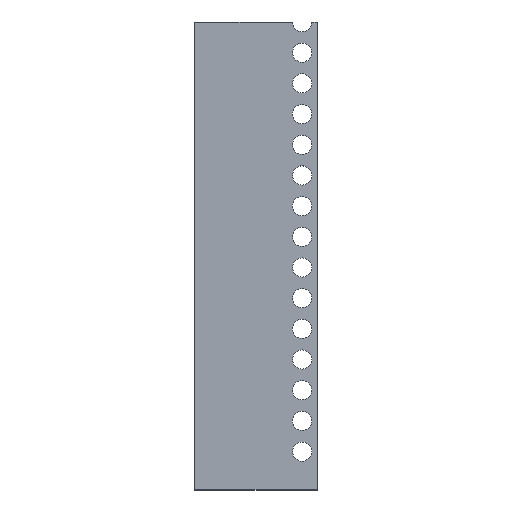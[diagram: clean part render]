
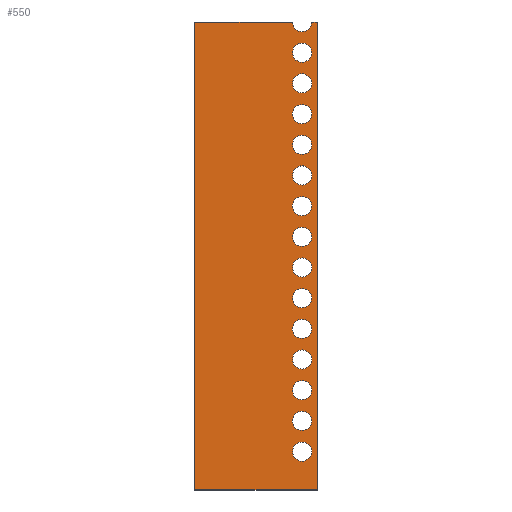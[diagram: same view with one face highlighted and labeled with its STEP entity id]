
A CAD part, top view. The second image highlights one B-rep face of the part: STEP entity #550.
In plain terms, the highlighted planar face has unit normal (0, 0, 1).
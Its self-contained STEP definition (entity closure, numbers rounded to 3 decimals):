
#30=FACE_BOUND('',#105,.T.);
#31=FACE_BOUND('',#106,.T.);
#32=FACE_BOUND('',#107,.T.);
#33=FACE_BOUND('',#108,.T.);
#34=FACE_BOUND('',#109,.T.);
#35=FACE_BOUND('',#110,.T.);
#36=FACE_BOUND('',#111,.T.);
#37=FACE_BOUND('',#112,.T.);
#38=FACE_BOUND('',#113,.T.);
#39=FACE_BOUND('',#114,.T.);
#40=FACE_BOUND('',#115,.T.);
#41=FACE_BOUND('',#116,.T.);
#42=FACE_BOUND('',#117,.T.);
#43=FACE_BOUND('',#118,.T.);
#60=PLANE('',#636);
#82=FACE_OUTER_BOUND('',#104,.T.);
#104=EDGE_LOOP('',(#452,#453,#454,#455,#456,#457));
#105=EDGE_LOOP('',(#458));
#106=EDGE_LOOP('',(#459));
#107=EDGE_LOOP('',(#460));
#108=EDGE_LOOP('',(#461));
#109=EDGE_LOOP('',(#462));
#110=EDGE_LOOP('',(#463));
#111=EDGE_LOOP('',(#464));
#112=EDGE_LOOP('',(#465));
#113=EDGE_LOOP('',(#466));
#114=EDGE_LOOP('',(#467));
#115=EDGE_LOOP('',(#468));
#116=EDGE_LOOP('',(#469));
#117=EDGE_LOOP('',(#470));
#118=EDGE_LOOP('',(#471));
#155=LINE('',#935,#185);
#156=LINE('',#938,#186);
#159=LINE('',#944,#189);
#160=LINE('',#946,#190);
#161=LINE('',#947,#191);
#185=VECTOR('',#782,10.);
#186=VECTOR('',#785,10.);
#189=VECTOR('',#790,10.);
#190=VECTOR('',#791,10.);
#191=VECTOR('',#792,10.);
#199=CIRCLE('',#578,1.25);
#202=CIRCLE('',#582,1.25);
#205=CIRCLE('',#586,1.25);
#208=CIRCLE('',#590,1.25);
#211=CIRCLE('',#594,1.25);
#214=CIRCLE('',#598,1.25);
#217=CIRCLE('',#602,1.25);
#220=CIRCLE('',#606,1.25);
#223=CIRCLE('',#610,1.25);
#226=CIRCLE('',#614,1.25);
#229=CIRCLE('',#618,1.25);
#232=CIRCLE('',#622,1.25);
#235=CIRCLE('',#626,1.25);
#238=CIRCLE('',#630,1.25);
#240=CIRCLE('',#633,1.25);
#244=VERTEX_POINT('',#814);
#247=VERTEX_POINT('',#822);
#250=VERTEX_POINT('',#830);
#253=VERTEX_POINT('',#838);
#256=VERTEX_POINT('',#846);
#259=VERTEX_POINT('',#854);
#262=VERTEX_POINT('',#862);
#265=VERTEX_POINT('',#870);
#268=VERTEX_POINT('',#878);
#271=VERTEX_POINT('',#886);
#274=VERTEX_POINT('',#894);
#277=VERTEX_POINT('',#902);
#280=VERTEX_POINT('',#910);
#283=VERTEX_POINT('',#918);
#285=VERTEX_POINT('',#923);
#287=VERTEX_POINT('',#927);
#289=VERTEX_POINT('',#933);
#290=VERTEX_POINT('',#937);
#292=VERTEX_POINT('',#943);
#293=VERTEX_POINT('',#945);
#299=EDGE_CURVE('',#244,#244,#199,.T.);
#303=EDGE_CURVE('',#247,#247,#202,.T.);
#307=EDGE_CURVE('',#250,#250,#205,.T.);
#311=EDGE_CURVE('',#253,#253,#208,.T.);
#315=EDGE_CURVE('',#256,#256,#211,.T.);
#319=EDGE_CURVE('',#259,#259,#214,.T.);
#323=EDGE_CURVE('',#262,#262,#217,.T.);
#327=EDGE_CURVE('',#265,#265,#220,.T.);
#331=EDGE_CURVE('',#268,#268,#223,.T.);
#335=EDGE_CURVE('',#271,#271,#226,.T.);
#339=EDGE_CURVE('',#274,#274,#229,.T.);
#343=EDGE_CURVE('',#277,#277,#232,.T.);
#347=EDGE_CURVE('',#280,#280,#235,.T.);
#351=EDGE_CURVE('',#283,#283,#238,.T.);
#355=EDGE_CURVE('',#285,#287,#240,.T.);
#358=EDGE_CURVE('',#287,#289,#155,.T.);
#359=EDGE_CURVE('',#290,#285,#156,.T.);
#362=EDGE_CURVE('',#289,#292,#159,.T.);
#363=EDGE_CURVE('',#292,#293,#160,.T.);
#364=EDGE_CURVE('',#293,#290,#161,.T.);
#452=ORIENTED_EDGE('',*,*,#355,.T.);
#453=ORIENTED_EDGE('',*,*,#358,.T.);
#454=ORIENTED_EDGE('',*,*,#362,.T.);
#455=ORIENTED_EDGE('',*,*,#363,.T.);
#456=ORIENTED_EDGE('',*,*,#364,.T.);
#457=ORIENTED_EDGE('',*,*,#359,.T.);
#458=ORIENTED_EDGE('',*,*,#351,.T.);
#459=ORIENTED_EDGE('',*,*,#347,.T.);
#460=ORIENTED_EDGE('',*,*,#343,.T.);
#461=ORIENTED_EDGE('',*,*,#339,.T.);
#462=ORIENTED_EDGE('',*,*,#335,.T.);
#463=ORIENTED_EDGE('',*,*,#331,.T.);
#464=ORIENTED_EDGE('',*,*,#327,.T.);
#465=ORIENTED_EDGE('',*,*,#323,.T.);
#466=ORIENTED_EDGE('',*,*,#319,.T.);
#467=ORIENTED_EDGE('',*,*,#315,.T.);
#468=ORIENTED_EDGE('',*,*,#311,.T.);
#469=ORIENTED_EDGE('',*,*,#307,.T.);
#470=ORIENTED_EDGE('',*,*,#303,.T.);
#471=ORIENTED_EDGE('',*,*,#299,.T.);
#550=ADVANCED_FACE('',(#82,#30,#31,#32,#33,#34,#35,#36,#37,#38,#39,#40,
#41,#42,#43),#60,.T.);
#578=AXIS2_PLACEMENT_3D('',#816,#651,#652);
#582=AXIS2_PLACEMENT_3D('',#824,#660,#661);
#586=AXIS2_PLACEMENT_3D('',#832,#669,#670);
#590=AXIS2_PLACEMENT_3D('',#840,#678,#679);
#594=AXIS2_PLACEMENT_3D('',#848,#687,#688);
#598=AXIS2_PLACEMENT_3D('',#856,#696,#697);
#602=AXIS2_PLACEMENT_3D('',#864,#705,#706);
#606=AXIS2_PLACEMENT_3D('',#872,#714,#715);
#610=AXIS2_PLACEMENT_3D('',#880,#723,#724);
#614=AXIS2_PLACEMENT_3D('',#888,#732,#733);
#618=AXIS2_PLACEMENT_3D('',#896,#741,#742);
#622=AXIS2_PLACEMENT_3D('',#904,#750,#751);
#626=AXIS2_PLACEMENT_3D('',#912,#759,#760);
#630=AXIS2_PLACEMENT_3D('',#920,#768,#769);
#633=AXIS2_PLACEMENT_3D('',#929,#776,#777);
#636=AXIS2_PLACEMENT_3D('',#942,#788,#789);
#651=DIRECTION('center_axis',(0.,0.,-1.));
#652=DIRECTION('ref_axis',(1.,0.,0.));
#660=DIRECTION('center_axis',(0.,0.,-1.));
#661=DIRECTION('ref_axis',(1.,0.,0.));
#669=DIRECTION('center_axis',(0.,0.,-1.));
#670=DIRECTION('ref_axis',(1.,0.,0.));
#678=DIRECTION('center_axis',(0.,0.,-1.));
#679=DIRECTION('ref_axis',(1.,0.,0.));
#687=DIRECTION('center_axis',(0.,0.,-1.));
#688=DIRECTION('ref_axis',(1.,0.,0.));
#696=DIRECTION('center_axis',(0.,0.,-1.));
#697=DIRECTION('ref_axis',(1.,0.,0.));
#705=DIRECTION('center_axis',(0.,0.,-1.));
#706=DIRECTION('ref_axis',(1.,0.,0.));
#714=DIRECTION('center_axis',(0.,0.,-1.));
#715=DIRECTION('ref_axis',(1.,0.,0.));
#723=DIRECTION('center_axis',(0.,0.,-1.));
#724=DIRECTION('ref_axis',(1.,0.,0.));
#732=DIRECTION('center_axis',(0.,0.,-1.));
#733=DIRECTION('ref_axis',(1.,0.,0.));
#741=DIRECTION('center_axis',(0.,0.,-1.));
#742=DIRECTION('ref_axis',(1.,0.,0.));
#750=DIRECTION('center_axis',(0.,0.,-1.));
#751=DIRECTION('ref_axis',(1.,0.,0.));
#759=DIRECTION('center_axis',(0.,0.,-1.));
#760=DIRECTION('ref_axis',(1.,0.,0.));
#768=DIRECTION('center_axis',(0.,0.,-1.));
#769=DIRECTION('ref_axis',(1.,0.,0.));
#776=DIRECTION('center_axis',(0.,0.,-1.));
#777=DIRECTION('ref_axis',(1.,0.,0.));
#782=DIRECTION('',(-1.,0.,0.));
#785=DIRECTION('',(-1.,0.,0.));
#788=DIRECTION('center_axis',(0.,0.,1.));
#789=DIRECTION('ref_axis',(1.,0.,0.));
#790=DIRECTION('',(0.,-1.,0.));
#791=DIRECTION('',(1.,0.,0.));
#792=DIRECTION('',(0.,1.,0.));
#814=CARTESIAN_POINT('',(12.75,-4.,2.));
#816=CARTESIAN_POINT('Origin',(14.,-4.,2.));
#822=CARTESIAN_POINT('',(12.75,-12.,2.));
#824=CARTESIAN_POINT('Origin',(14.,-12.,2.));
#830=CARTESIAN_POINT('',(12.75,-56.,2.));
#832=CARTESIAN_POINT('Origin',(14.,-56.,2.));
#838=CARTESIAN_POINT('',(12.75,-48.,2.));
#840=CARTESIAN_POINT('Origin',(14.,-48.,2.));
#846=CARTESIAN_POINT('',(12.75,-40.,2.));
#848=CARTESIAN_POINT('Origin',(14.,-40.,2.));
#854=CARTESIAN_POINT('',(12.75,-32.,2.));
#856=CARTESIAN_POINT('Origin',(14.,-32.,2.));
#862=CARTESIAN_POINT('',(12.75,-24.,2.));
#864=CARTESIAN_POINT('Origin',(14.,-24.,2.));
#870=CARTESIAN_POINT('',(12.75,-20.,2.));
#872=CARTESIAN_POINT('Origin',(14.,-20.,2.));
#878=CARTESIAN_POINT('',(12.75,-28.,2.));
#880=CARTESIAN_POINT('Origin',(14.,-28.,2.));
#886=CARTESIAN_POINT('',(12.75,-36.,2.));
#888=CARTESIAN_POINT('Origin',(14.,-36.,2.));
#894=CARTESIAN_POINT('',(12.75,-44.,2.));
#896=CARTESIAN_POINT('Origin',(14.,-44.,2.));
#902=CARTESIAN_POINT('',(12.75,-52.,2.));
#904=CARTESIAN_POINT('Origin',(14.,-52.,2.));
#910=CARTESIAN_POINT('',(12.75,-16.,2.));
#912=CARTESIAN_POINT('Origin',(14.,-16.,2.));
#918=CARTESIAN_POINT('',(12.75,-8.,2.));
#920=CARTESIAN_POINT('Origin',(14.,-8.,2.));
#923=CARTESIAN_POINT('',(15.25,0.,2.));
#927=CARTESIAN_POINT('',(12.75,0.,2.));
#929=CARTESIAN_POINT('Origin',(14.,0.,2.));
#933=CARTESIAN_POINT('',(0.,0.,2.));
#935=CARTESIAN_POINT('',(0.,0.,2.));
#937=CARTESIAN_POINT('',(16.,0.,2.));
#938=CARTESIAN_POINT('',(0.,0.,2.));
#942=CARTESIAN_POINT('Origin',(8.,-30.5,2.));
#943=CARTESIAN_POINT('',(0.,-61.,2.));
#944=CARTESIAN_POINT('',(0.,-61.,2.));
#945=CARTESIAN_POINT('',(16.,-61.,2.));
#946=CARTESIAN_POINT('',(16.,-61.,2.));
#947=CARTESIAN_POINT('',(16.,0.,2.));
